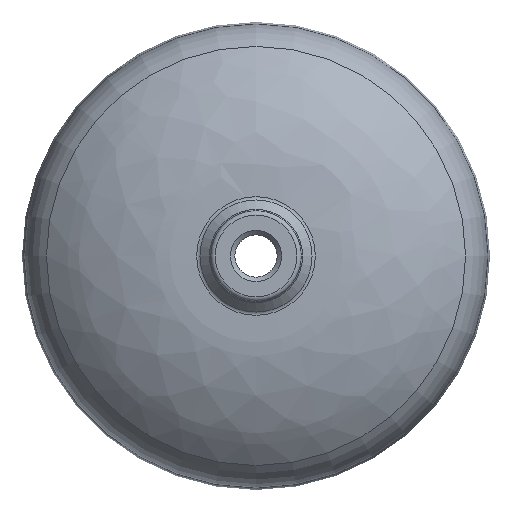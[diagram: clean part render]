
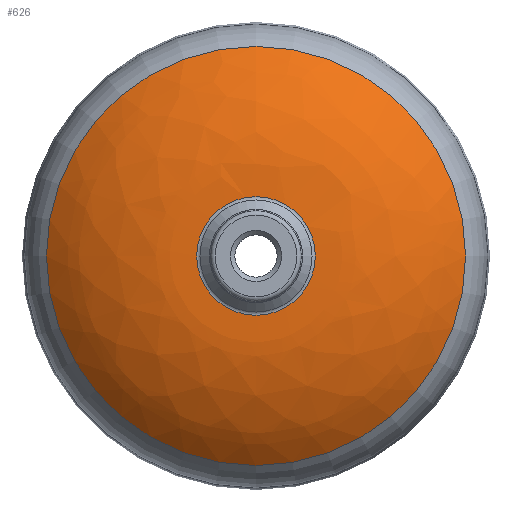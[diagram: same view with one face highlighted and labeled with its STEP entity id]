
A CAD part, front view. The second image highlights one B-rep face of the part: STEP entity #626.
In plain terms, the highlighted free-form (B-spline) face has degree [2, 2] with [3, 9] control points.
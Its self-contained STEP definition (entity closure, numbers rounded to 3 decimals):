
#14=(
BOUNDED_SURFACE()
B_SPLINE_SURFACE(2,2,((#1064,#1065,#1066,#1067,#1068,#1069,#1070,#1071,
#1072),(#1073,#1074,#1075,#1076,#1077,#1078,#1079,#1080,#1081),(#1082,#1083,
#1084,#1085,#1086,#1087,#1088,#1089,#1090)),.UNSPECIFIED.,.F.,.T.,.F.)
B_SPLINE_SURFACE_WITH_KNOTS((3,3),(3,2,2,2,3),(0.845,1.601),
(-3.142,-1.571,0.,1.571,3.142),
 .UNSPECIFIED.)
GEOMETRIC_REPRESENTATION_ITEM()
RATIONAL_B_SPLINE_SURFACE(((1.,0.707,1.,0.707,1.,
0.707,1.,0.707,1.),(0.929,0.657,
0.929,0.657,0.929,0.657,
0.929,0.657,0.929),(1.,0.707,
1.,0.707,1.,0.707,1.,0.707,1.)))
REPRESENTATION_ITEM('')
SURFACE()
);
#71=FACE_OUTER_BOUND('',#102,.T.);
#102=EDGE_LOOP('',(#425,#426,#427,#428,#429,#430));
#146=CIRCLE('',#693,26.86);
#148=CIRCLE('',#695,26.86);
#149=CIRCLE('',#696,98.075);
#150=CIRCLE('',#697,94.904);
#151=CIRCLE('',#698,94.904);
#229=VERTEX_POINT('',#1059);
#230=VERTEX_POINT('',#1060);
#231=VERTEX_POINT('',#1091);
#232=VERTEX_POINT('',#1093);
#305=EDGE_CURVE('',#229,#230,#146,.T.);
#307=EDGE_CURVE('',#230,#229,#148,.T.);
#308=EDGE_CURVE('',#230,#231,#149,.T.);
#309=EDGE_CURVE('',#232,#231,#150,.T.);
#310=EDGE_CURVE('',#231,#232,#151,.T.);
#425=ORIENTED_EDGE('',*,*,#305,.F.);
#426=ORIENTED_EDGE('',*,*,#307,.F.);
#427=ORIENTED_EDGE('',*,*,#308,.T.);
#428=ORIENTED_EDGE('',*,*,#309,.F.);
#429=ORIENTED_EDGE('',*,*,#310,.F.);
#430=ORIENTED_EDGE('',*,*,#308,.F.);
#626=ADVANCED_FACE('',(#71),#14,.F.);
#693=AXIS2_PLACEMENT_3D('',#1061,#831,#832);
#695=AXIS2_PLACEMENT_3D('',#1063,#835,#836);
#696=AXIS2_PLACEMENT_3D('',#1092,#837,#838);
#697=AXIS2_PLACEMENT_3D('',#1094,#839,#840);
#698=AXIS2_PLACEMENT_3D('',#1095,#841,#842);
#831=DIRECTION('center_axis',(0.,-1.,0.));
#832=DIRECTION('ref_axis',(-1.,0.,0.));
#835=DIRECTION('center_axis',(0.,-1.,0.));
#836=DIRECTION('ref_axis',(-1.,0.,0.));
#837=DIRECTION('center_axis',(-1.,0.,0.));
#838=DIRECTION('ref_axis',(0.,0.,1.));
#839=DIRECTION('center_axis',(0.,1.,0.));
#840=DIRECTION('ref_axis',(-1.,0.,0.));
#841=DIRECTION('center_axis',(0.,1.,0.));
#842=DIRECTION('ref_axis',(-1.,0.,0.));
#1059=CARTESIAN_POINT('',(26.86,-85.03,0.));
#1060=CARTESIAN_POINT('',(0.,-85.03,26.86));
#1061=CARTESIAN_POINT('Origin',(0.,-85.03,0.));
#1063=CARTESIAN_POINT('Origin',(0.,-85.03,0.));
#1064=CARTESIAN_POINT('Ctrl Pts',(0.,-60.382,94.904));
#1065=CARTESIAN_POINT('Ctrl Pts',(-94.904,-60.382,94.904));
#1066=CARTESIAN_POINT('Ctrl Pts',(-94.904,-60.382,0.));
#1067=CARTESIAN_POINT('Ctrl Pts',(-94.904,-60.382,-94.904));
#1068=CARTESIAN_POINT('Ctrl Pts',(0.,-60.382,-94.904));
#1069=CARTESIAN_POINT('Ctrl Pts',(94.904,-60.382,-94.904));
#1070=CARTESIAN_POINT('Ctrl Pts',(94.904,-60.382,0.));
#1071=CARTESIAN_POINT('Ctrl Pts',(94.904,-60.382,94.904));
#1072=CARTESIAN_POINT('Ctrl Pts',(0.,-60.382,94.904));
#1073=CARTESIAN_POINT('Ctrl Pts',(0.,-86.211,65.774));
#1074=CARTESIAN_POINT('Ctrl Pts',(-65.774,-86.211,65.774));
#1075=CARTESIAN_POINT('Ctrl Pts',(-65.774,-86.211,0.));
#1076=CARTESIAN_POINT('Ctrl Pts',(-65.774,-86.211,-65.774));
#1077=CARTESIAN_POINT('Ctrl Pts',(0.,-86.211,-65.774));
#1078=CARTESIAN_POINT('Ctrl Pts',(65.774,-86.211,-65.774));
#1079=CARTESIAN_POINT('Ctrl Pts',(65.774,-86.211,0.));
#1080=CARTESIAN_POINT('Ctrl Pts',(65.774,-86.211,65.774));
#1081=CARTESIAN_POINT('Ctrl Pts',(0.,-86.211,65.774));
#1082=CARTESIAN_POINT('Ctrl Pts',(0.,-85.03,26.86));
#1083=CARTESIAN_POINT('Ctrl Pts',(-26.86,-85.03,26.86));
#1084=CARTESIAN_POINT('Ctrl Pts',(-26.86,-85.03,0.));
#1085=CARTESIAN_POINT('Ctrl Pts',(-26.86,-85.03,-26.86));
#1086=CARTESIAN_POINT('Ctrl Pts',(0.,-85.03,-26.86));
#1087=CARTESIAN_POINT('Ctrl Pts',(26.86,-85.03,-26.86));
#1088=CARTESIAN_POINT('Ctrl Pts',(26.86,-85.03,0.));
#1089=CARTESIAN_POINT('Ctrl Pts',(26.86,-85.03,26.86));
#1090=CARTESIAN_POINT('Ctrl Pts',(0.,-85.03,26.86));
#1091=CARTESIAN_POINT('',(0.,-60.382,94.904));
#1092=CARTESIAN_POINT('Origin',(0.,13.,
29.836));
#1093=CARTESIAN_POINT('',(94.904,-60.382,0.));
#1094=CARTESIAN_POINT('Origin',(0.,-60.382,0.));
#1095=CARTESIAN_POINT('Origin',(0.,-60.382,0.));
